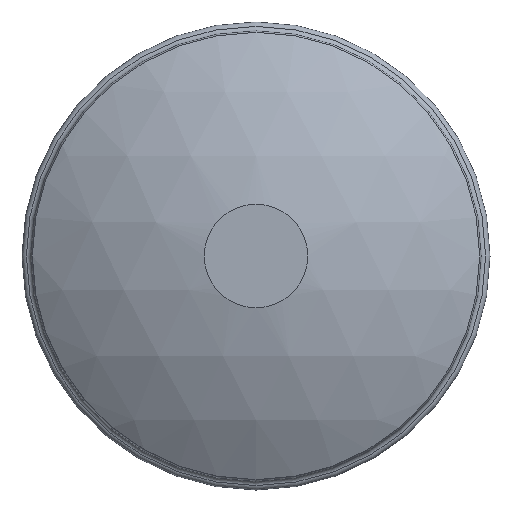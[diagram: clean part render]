
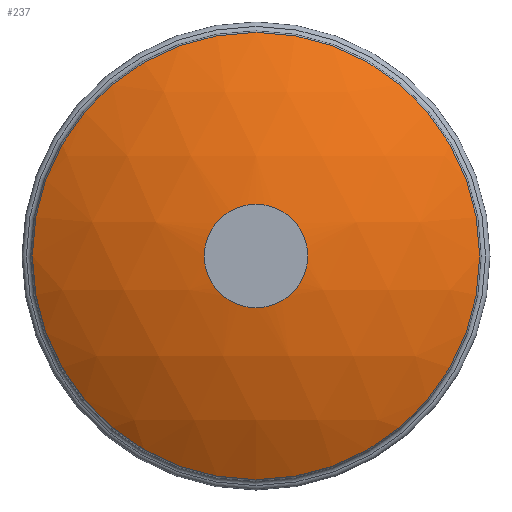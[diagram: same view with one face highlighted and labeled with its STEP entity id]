
A CAD part, left-side view. The second image highlights one B-rep face of the part: STEP entity #237.
In plain terms, the highlighted spherical face has radius 240.538 mm.
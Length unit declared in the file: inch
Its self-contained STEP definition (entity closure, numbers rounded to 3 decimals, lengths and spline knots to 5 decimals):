
#45=FACE_BOUND('',#75,.T.);
#47=SPHERICAL_SURFACE('',#284,9.47);
#62=FACE_OUTER_BOUND('',#74,.T.);
#74=EDGE_LOOP('',(#190));
#75=EDGE_LOOP('',(#191));
#90=CIRCLE('',#264,1.1875);
#93=CIRCLE('',#269,5.13798);
#113=VERTEX_POINT('',#416);
#115=VERTEX_POINT('',#423);
#133=EDGE_CURVE('',#113,#113,#90,.T.);
#136=EDGE_CURVE('',#115,#115,#93,.T.);
#190=ORIENTED_EDGE('',*,*,#136,.F.);
#191=ORIENTED_EDGE('',*,*,#133,.T.);
#237=ADVANCED_FACE('',(#62,#45),#47,.T.);
#264=AXIS2_PLACEMENT_3D('',#418,#317,#318);
#269=AXIS2_PLACEMENT_3D('',#425,#327,#328);
#284=AXIS2_PLACEMENT_3D('',#450,#359,#360);
#317=DIRECTION('center_axis',(1.,0.,0.));
#318=DIRECTION('ref_axis',(0.,0.,1.));
#327=DIRECTION('center_axis',(1.,0.,0.));
#328=DIRECTION('ref_axis',(0.,0.,-1.));
#359=DIRECTION('center_axis',(0.,0.,1.));
#360=DIRECTION('ref_axis',(-1.,0.002,0.));
#416=CARTESIAN_POINT('',(0.07475,0.,-1.1875));
#418=CARTESIAN_POINT('Origin',(0.07475,0.,
0.));
#423=CARTESIAN_POINT('',(1.515,-5.13798,0.));
#425=CARTESIAN_POINT('Origin',(1.515,0.,0.));
#450=CARTESIAN_POINT('Origin',(9.47,0.,0.));
